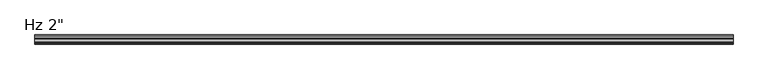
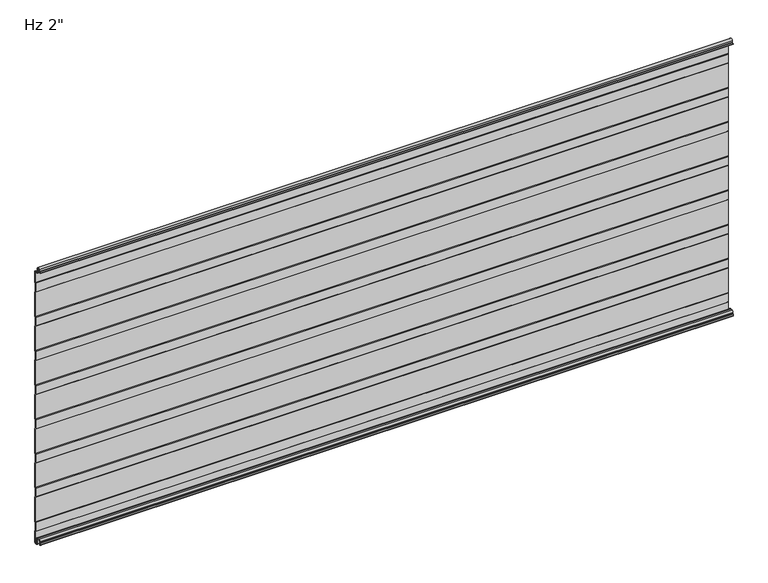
"""IFC4 building model written with IfcOpenShell, lengths in millimetres: plate geometry."""

from ifc_helpers import new_model, si_unit, frame, origin, place, context, project, spatial, polyline, circle_curve, source, transform, mapped, element, save
from ifc_brep_helpers import plane_surface, cylinder_surface, revolved_surface, advanced_brep


def plate_0f366c96(model_context):
    return source(origin(), model_context, "Body", "AdvancedBrep", [
        advanced_brep(
        [(-730.0, -17.0015159, 2.0313088), (-730.0, -18.0015191, 1.0313116), (-730.0, -19.0015104, 2.0313088), (-730.0, -19.0015105, 6.0315125), (-730.0, -18.0015159, 6.0315125), (-730.0, -18.0015159, 8.7237223), (-730.0, -14.7015202, 12.023718), (-730.0, -10.301529, 12.023718), (-730.0, -7.0015335, 8.7237225), (-730.0, -7.0015335, -1.6962564), (-730.0, -5.2315393, -3.4662506), (-730.0, -0.9999916, -3.4662506), (-730.0, -0.9999916, 21.034026), (-730.0, -2.2002307, 22.4196686), (-730.0, -2.2002307, 41.7948349), (-730.0, -1.0, 43.1804679), (-730.0, -1.0, 97.2338833), (-730.0, -2.2002307, 98.6195162), (-730.0, -2.2002307, 117.9946825), (-730.0, -1.0, 119.3803155), (-730.0, -1.0, 173.4337309), (-730.0, -2.2002307, 174.8193638), (-730.0, -2.2002307, 194.1945301), (-730.0, -1.0, 195.5801631), (-730.0, -1.0, 249.6335785), (-730.0, -2.2002307, 251.0192114), (-730.0, -2.2002307, 270.3943777), (-730.0, -1.0, 271.7800107), (-730.0, -1.0, 325.8334261), (-730.0, -2.2002307, 327.219059), (-730.0, -2.2002307, 346.5942253), (-730.0, -1.0, 347.9798583), (-730.0, -1.0, 402.0332737), (-730.0, -2.2002307, 403.4189066), (-730.0, -2.2002307, 422.7940729), (-730.0, -1.0, 424.1797059), (-730.0, -1.0, 478.2331213), (-730.0, -2.2002307, 479.6187542), (-730.0, -2.2002307, 498.9939205), (-730.0, -1.0, 500.3795535), (-730.0, -1.0, 554.4329689), (-730.0, -2.2002307, 555.8186018), (-730.0, -2.2002307, 575.1937681), (-730.0, -1.0, 576.5794011), (-730.0, -1.0, 601.0787013), (-730.0, -6.0026007, 601.0787013), (-730.0, -9.9974365, 604.9016499), (-730.0, -10.4046442, 613.3931719), (-730.0, -14.7059822, 613.3921924), (-730.0, -14.9256429, 609.2513685), (-730.0, -16.6743462, 607.5686884), (-730.0, -19.0015288, 607.5686884), (-730.0, -19.0015288, 608.5686884), (-730.0, -16.6743462, 608.5686884), (-730.0, -15.9247038, 609.2955779), (-730.0, -15.7045782, 613.4451655), (-730.0, -9.405912, 613.4435732), (-730.0, -8.9985844, 604.9495495), (-730.0, -6.0004836, 602.0787013), (-730.0, -1.4015652, 602.0787013), (-730.0, -0.001568, 600.678797), (-730.0, 2.09e-05, 576.7275849), (-730.0, -0.3417885, 575.8119353), (-730.0, -1.2002307, 574.8208877), (-730.0, -1.2002307, 556.1914823), (-730.0, -0.3417885, 555.2004346), (-730.0, 0.0, 554.2838177), (-730.0, 0.0, 500.5287046), (-730.0, -0.3417885, 499.6120877), (-730.0, -1.2002307, 498.6210401), (-730.0, -1.2002307, 479.9916347), (-730.0, -0.3417885, 479.000587), (-730.0, 0.0, 478.0839701), (-730.0, 0.0, 424.328857), (-730.0, -0.3417885, 423.4122401), (-730.0, -1.2002307, 422.4211925), (-730.0, -1.2002307, 403.7917871), (-730.0, -0.3417885, 402.8007394), (-730.0, 0.0, 401.8841225), (-730.0, 0.0, 348.1290094), (-730.0, -0.3417885, 347.2123925), (-730.0, -1.2002307, 346.2213449), (-730.0, -1.2002307, 327.5919395), (-730.0, -0.3417885, 326.6008918), (-730.0, 0.0, 325.6842749), (-730.0, 0.0, 271.9291618), (-730.0, -0.3417885, 271.0125449), (-730.0, -1.2002307, 270.0214973), (-730.0, -1.2002307, 251.3920919), (-730.0, -0.3417885, 250.4010442), (-730.0, 0.0, 249.4844273), (-730.0, 0.0, 195.7293142), (-730.0, -0.3417885, 194.8126973), (-730.0, -1.2002307, 193.8216497), (-730.0, -1.2002307, 175.1922443), (-730.0, -0.3417885, 174.2011966), (-730.0, 0.0, 173.2845797), (-730.0, 0.0, 119.5294666), (-730.0, -0.3417885, 118.6128497), (-730.0, -1.2002307, 117.6218021), (-730.0, -1.2002307, 98.9923967), (-730.0, -0.3417885, 98.001349), (-730.0, 0.0, 97.0847321), (-730.0, 0.0, 43.329619), (-730.0, -0.3417885, 42.4130021), (-730.0, -1.2002307, 41.4219545), (-730.0, -1.2002307, 22.7925491), (-730.0, -0.3417885, 21.8015014), (-730.0, 0.0, 20.8847931), (-730.0, 8.4e-06, -3.0662545), (-730.0, -1.3999878, -4.4662506), (-730.0, -5.2315393, -4.4662506), (-730.0, -8.0015335, -1.6962564), (-730.0, -8.0015335, 8.7237225), (-730.0, -10.301529, 11.023718), (-730.0, -14.7015202, 11.023718), (-730.0, -17.0015159, 8.7237223), (730.0, -17.0015159, 2.0313088), (730.0, -17.0015159, 8.7237223), (730.0, -14.7015202, 11.023718), (730.0, -10.301529, 11.023718), (730.0, -8.0015335, 8.7237225), (730.0, -8.0015335, -1.6962564), (730.0, -5.2315393, -4.4662506), (730.0, -1.3999878, -4.4662506), (730.0, 8.4e-06, -3.0662545), (730.0, 8.4e-06, 20.8848845), (730.0, -0.3417885, 21.8015014), (730.0, -1.2002307, 22.7925491), (730.0, -1.2002307, 41.4219545), (730.0, -0.3417885, 42.4130021), (730.0, 0.0, 43.329619), (730.0, 0.0, 97.0847321), (730.0, -0.3417885, 98.001349), (730.0, -1.2002307, 98.9923967), (730.0, -1.2002307, 117.6218021), (730.0, -0.3417885, 118.6128497), (730.0, 0.0, 119.5294666), (730.0, 0.0, 173.2845797), (730.0, -0.3417885, 174.2011966), (730.0, -1.2002307, 175.1922443), (730.0, -1.2002307, 193.8216497), (730.0, -0.3417885, 194.8126973), (730.0, 0.0, 195.7293142), (730.0, 0.0, 249.4844273), (730.0, -0.3417885, 250.4010442), (730.0, -1.2002307, 251.3920919), (730.0, -1.2002307, 270.0214973), (730.0, -0.3417885, 271.0125449), (730.0, 0.0, 271.9291618), (730.0, 0.0, 325.6842749), (730.0, -0.3417885, 326.6008918), (730.0, -1.2002307, 327.5919395), (730.0, -1.2002307, 346.2213449), (730.0, -0.3417885, 347.2123925), (730.0, 0.0, 348.1290094), (730.0, 0.0, 401.8841225), (730.0, -0.3417885, 402.8007394), (730.0, -1.2002307, 403.7917871), (730.0, -1.2002307, 422.4211925), (730.0, -0.3417885, 423.4122401), (730.0, 0.0, 424.328857), (730.0, 0.0, 478.0839701), (730.0, -0.3417885, 479.000587), (730.0, -1.2002307, 479.9916347), (730.0, -1.2002307, 498.6210401), (730.0, -0.3417885, 499.6120877), (730.0, 0.0, 500.5287046), (730.0, 0.0, 554.2838177), (730.0, -0.3417885, 555.2004346), (730.0, -1.2002307, 556.1914823), (730.0, -1.2002307, 574.8208877), (730.0, -0.3417885, 575.8119353), (730.0, 0.0, 576.7285522), (730.0, 2.09e-05, 600.678797), (730.0, -1.4015652, 602.0787013), (730.0, -6.0004836, 602.0787013), (730.0, -8.9985844, 604.9495495), (730.0, -9.405912, 613.4435732), (730.0, -15.7045782, 613.4451655), (730.0, -15.9247038, 609.2955779), (730.0, -16.6743462, 608.5686884), (730.0, -19.0015288, 608.5686884), (730.0, -19.0015288, 607.5686884), (730.0, -16.6743462, 607.5686884), (730.0, -14.9256429, 609.2513685), (730.0, -14.7059822, 613.3921924), (730.0, -10.4046442, 613.3931719), (730.0, -9.9974365, 604.9016499), (730.0, -6.0026007, 601.0787013), (730.0, -1.0, 601.0787013), (730.0, -1.0, 576.5794011), (730.0, -2.2002307, 575.1937681), (730.0, -2.2002307, 555.8186018), (730.0, -1.0, 554.4329689), (730.0, -1.0, 500.3795535), (730.0, -2.2002307, 498.9939205), (730.0, -2.2002307, 479.6187542), (730.0, -1.0, 478.2331213), (730.0, -1.0, 424.1797059), (730.0, -2.2002307, 422.7940729), (730.0, -2.2002307, 403.4189066), (730.0, -1.0, 402.0332737), (730.0, -1.0, 347.9798583), (730.0, -2.2002307, 346.5942253), (730.0, -2.2002307, 327.219059), (730.0, -1.0, 325.8334261), (730.0, -1.0, 271.7800107), (730.0, -2.2002307, 270.3943777), (730.0, -2.2002307, 251.0192114), (730.0, -1.0, 249.6335785), (730.0, -1.0, 195.5801631), (730.0, -2.2002307, 194.1945301), (730.0, -2.2002307, 174.8193638), (730.0, -1.0, 173.4337309), (730.0, -1.0, 119.3803155), (730.0, -2.2002307, 117.9946825), (730.0, -2.2002307, 98.6195162), (730.0, -1.0, 97.2338833), (730.0, -1.0, 43.1804679), (730.0, -2.2002307, 41.7948349), (730.0, -2.2002307, 22.4196686), (730.0, -0.9999916, 21.034026), (730.0, -0.9999916, -3.4662506), (730.0, -5.2315393, -3.4662506), (730.0, -7.0015335, -1.6962564), (730.0, -7.0015335, 8.7237225), (730.0, -10.301529, 12.023718), (730.0, -14.7015202, 12.023718), (730.0, -18.0015159, 8.7237223), (730.0, -18.0015159, 6.0315125), (730.0, -19.0015105, 6.0315125), (730.0, -19.0015105, 2.0313088), (730.0, -18.0015191, 1.0313116)],
        [
            (0, 1, circle_curve(frame((-730.0, -18.0015132, 2.0313088), z_axis=(-1.0, 0.0, 0.0), x_axis=(0.0, 0.0, 1.0)), 0.9999973)),
            (1, 2, circle_curve(frame((-730.0, -18.0015132, 2.0313088), z_axis=(-1.0, 0.0, 0.0), x_axis=(0.0, 0.0, 1.0)), 0.9999972)),
            (2, 3),
            (3, 4),
            (4, 5),
            (5, 6, circle_curve(frame((-730.0, -14.7015202, 8.7237223), z_axis=(-1.0, 0.0, 0.0), x_axis=(0.0, 0.0, 1.0)), 3.2999957)),
            (6, 7),
            (7, 8, circle_curve(frame((-730.0, -10.301529, 8.7237225), z_axis=(-1.0, 0.0, 0.0), x_axis=(0.0, 0.0, 1.0)), 3.2999955)),
            (8, 9),
            (9, 10, circle_curve(frame((-730.0, -5.2315393, -1.6962564), z_axis=(1.0, 0.0, 0.0), x_axis=(0.0, 0.0, 1.0)), 1.7699942)),
            (10, 11),
            (11, 12),
            (12, 13),
            (13, 14),
            (14, 15),
            (15, 16),
            (16, 17),
            (17, 18),
            (18, 19),
            (19, 20),
            (20, 21),
            (21, 22),
            (22, 23),
            (23, 24),
            (24, 25),
            (25, 26),
            (26, 27),
            (27, 28),
            (28, 29),
            (29, 30),
            (30, 31),
            (31, 32),
            (32, 33),
            (33, 34),
            (34, 35),
            (35, 36),
            (36, 37),
            (37, 38),
            (38, 39),
            (39, 40),
            (40, 41),
            (41, 42),
            (42, 43),
            (43, 44),
            (44, 45),
            (45, 46, circle_curve(frame((-730.0, -5.9867338, 605.0939817), z_axis=(-1.0, 0.0, 0.0), x_axis=(0.0, 0.0, 1.0)), 4.0153117)),
            (46, 47),
            (47, 48, circle_curve(frame((-730.0, -12.5552871, 613.2781032), z_axis=(1.0, 0.0, 0.0), x_axis=(0.0, 0.0, 1.0)), 2.153719)),
            (48, 49),
            (49, 50, circle_curve(frame((-730.0, -16.6743462, 609.3186869), z_axis=(-1.0, 0.0, 0.0), x_axis=(0.0, 0.0, 1.0)), 1.7499985)),
            (50, 51),
            (51, 52),
            (52, 53),
            (53, 54, circle_curve(frame((-730.0, -16.6743462, 609.3186869), z_axis=(1.0, 0.0, 0.0), x_axis=(0.0, 0.0, 1.0)), 0.7499985)),
            (54, 55),
            (55, 56, circle_curve(frame((-730.0, -12.5552871, 613.2781032), z_axis=(-1.0, 0.0, 0.0), x_axis=(0.0, 0.0, 1.0)), 3.153719)),
            (56, 57),
            (57, 58, circle_curve(frame((-730.0, -5.9867338, 605.0939817), z_axis=(1.0, 0.0, 0.0), x_axis=(0.0, 0.0, 1.0)), 3.0153117)),
            (58, 59),
            (59, 60, circle_curve(frame((-730.0, -1.4015652, 600.6787041), z_axis=(-1.0, 0.0, 0.0), x_axis=(0.0, 0.0, 1.0)), 1.3999972)),
            (60, 61),
            (61, 62, circle_curve(frame((-730.0, -1.3999972, 576.7285522), z_axis=(-1.0, 0.0, 0.0), x_axis=(0.0, 0.0, 1.0)), 1.3999972)),
            (62, 63),
            (63, 64),
            (64, 65),
            (65, 66, circle_curve(frame((-730.0, -1.3999972, 554.2838177), z_axis=(-1.0, 0.0, 0.0), x_axis=(0.0, 0.0, 1.0)), 1.3999972)),
            (66, 67),
            (67, 68, circle_curve(frame((-730.0, -1.3999972, 500.5287046), z_axis=(-1.0, 0.0, 0.0), x_axis=(0.0, 0.0, 1.0)), 1.3999972)),
            (68, 69),
            (69, 70),
            (70, 71),
            (71, 72, circle_curve(frame((-730.0, -1.3999972, 478.0839701), z_axis=(-1.0, 0.0, 0.0), x_axis=(0.0, 0.0, 1.0)), 1.3999972)),
            (72, 73),
            (73, 74, circle_curve(frame((-730.0, -1.3999972, 424.328857), z_axis=(-1.0, 0.0, 0.0), x_axis=(0.0, 0.0, 1.0)), 1.3999972)),
            (74, 75),
            (75, 76),
            (76, 77),
            (77, 78, circle_curve(frame((-730.0, -1.3999972, 401.8841225), z_axis=(-1.0, 0.0, 0.0), x_axis=(0.0, 0.0, 1.0)), 1.3999972)),
            (78, 79),
            (79, 80, circle_curve(frame((-730.0, -1.3999972, 348.1290094), z_axis=(-1.0, 0.0, 0.0), x_axis=(0.0, 0.0, 1.0)), 1.3999972)),
            (80, 81),
            (81, 82),
            (82, 83),
            (83, 84, circle_curve(frame((-730.0, -1.3999972, 325.6842749), z_axis=(-1.0, 0.0, 0.0), x_axis=(0.0, 0.0, 1.0)), 1.3999972)),
            (84, 85),
            (85, 86, circle_curve(frame((-730.0, -1.3999972, 271.9291618), z_axis=(-1.0, 0.0, 0.0), x_axis=(0.0, 0.0, 1.0)), 1.3999972)),
            (86, 87),
            (87, 88),
            (88, 89),
            (89, 90, circle_curve(frame((-730.0, -1.3999972, 249.4844273), z_axis=(-1.0, 0.0, 0.0), x_axis=(0.0, 0.0, 1.0)), 1.3999972)),
            (90, 91),
            (91, 92, circle_curve(frame((-730.0, -1.3999972, 195.7293142), z_axis=(-1.0, 0.0, 0.0), x_axis=(0.0, 0.0, 1.0)), 1.3999972)),
            (92, 93),
            (93, 94),
            (94, 95),
            (95, 96, circle_curve(frame((-730.0, -1.3999972, 173.2845797), z_axis=(-1.0, 0.0, 0.0), x_axis=(0.0, 0.0, 1.0)), 1.3999972)),
            (96, 97),
            (97, 98, circle_curve(frame((-730.0, -1.3999972, 119.5294666), z_axis=(-1.0, 0.0, 0.0), x_axis=(0.0, 0.0, 1.0)), 1.3999972)),
            (98, 99),
            (99, 100),
            (100, 101),
            (101, 102, circle_curve(frame((-730.0, -1.3999972, 97.0847321), z_axis=(-1.0, 0.0, 0.0), x_axis=(0.0, 0.0, 1.0)), 1.3999972)),
            (102, 103),
            (103, 104, circle_curve(frame((-730.0, -1.3999972, 43.329619), z_axis=(-1.0, 0.0, 0.0), x_axis=(0.0, 0.0, 1.0)), 1.3999972)),
            (104, 105),
            (105, 106),
            (106, 107),
            (107, 108, circle_curve(frame((-730.0, -1.3999972, 20.8848845), z_axis=(-1.0, 0.0, 0.0), x_axis=(0.0, 0.0, 1.0)), 1.3999972)),
            (108, 109),
            (109, 110, circle_curve(frame((-730.0, -1.3999878, -3.0662545), z_axis=(-1.0, 0.0, 0.0), x_axis=(0.0, 0.0, 1.0)), 1.3999962)),
            (110, 111),
            (111, 112, circle_curve(frame((-730.0, -5.2315393, -1.6962564), z_axis=(-1.0, 0.0, 0.0), x_axis=(0.0, 0.0, 1.0)), 2.7699942)),
            (112, 113),
            (113, 114, circle_curve(frame((-730.0, -10.301529, 8.7237225), z_axis=(1.0, 0.0, 0.0), x_axis=(0.0, 0.0, 1.0)), 2.2999955)),
            (114, 115),
            (115, 116, circle_curve(frame((-730.0, -14.7015202, 8.7237223), z_axis=(1.0, 0.0, 0.0), x_axis=(0.0, 0.0, 1.0)), 2.2999957)),
            (116, 0),
            (117, 118),
            (118, 119, circle_curve(frame((730.0, -14.7015202, 8.7237223), z_axis=(-1.0, 0.0, 0.0), x_axis=(0.0, 0.0, 1.0)), 2.2999957)),
            (119, 120),
            (120, 121, circle_curve(frame((730.0, -10.301529, 8.7237225), z_axis=(-1.0, 0.0, 0.0), x_axis=(0.0, 0.0, 1.0)), 2.2999955)),
            (121, 122),
            (122, 123, circle_curve(frame((730.0, -5.2315393, -1.6962564), z_axis=(1.0, 0.0, 0.0), x_axis=(0.0, 0.0, 1.0)), 2.7699942)),
            (123, 124),
            (124, 125, circle_curve(frame((730.0, -1.3999878, -3.0662545), z_axis=(1.0, 0.0, 0.0), x_axis=(0.0, 0.0, 1.0)), 1.3999962)),
            (125, 126),
            (126, 127, circle_curve(frame((730.0, -1.3999972, 20.8848845), z_axis=(1.0, 0.0, 0.0), x_axis=(0.0, 0.0, 1.0)), 1.3999972)),
            (127, 128),
            (128, 129),
            (129, 130),
            (130, 131, circle_curve(frame((730.0, -1.3999972, 43.329619), z_axis=(1.0, 0.0, 0.0), x_axis=(0.0, 0.0, 1.0)), 1.3999972)),
            (131, 132),
            (132, 133, circle_curve(frame((730.0, -1.3999972, 97.0847321), z_axis=(1.0, 0.0, 0.0), x_axis=(0.0, 0.0, 1.0)), 1.3999972)),
            (133, 134),
            (134, 135),
            (135, 136),
            (136, 137, circle_curve(frame((730.0, -1.3999972, 119.5294666), z_axis=(1.0, 0.0, 0.0), x_axis=(0.0, 0.0, 1.0)), 1.3999972)),
            (137, 138),
            (138, 139, circle_curve(frame((730.0, -1.3999972, 173.2845797), z_axis=(1.0, 0.0, 0.0), x_axis=(0.0, 0.0, 1.0)), 1.3999972)),
            (139, 140),
            (140, 141),
            (141, 142),
            (142, 143, circle_curve(frame((730.0, -1.3999972, 195.7293142), z_axis=(1.0, 0.0, 0.0), x_axis=(0.0, 0.0, 1.0)), 1.3999972)),
            (143, 144),
            (144, 145, circle_curve(frame((730.0, -1.3999972, 249.4844273), z_axis=(1.0, 0.0, 0.0), x_axis=(0.0, 0.0, 1.0)), 1.3999972)),
            (145, 146),
            (146, 147),
            (147, 148),
            (148, 149, circle_curve(frame((730.0, -1.3999972, 271.9291618), z_axis=(1.0, 0.0, 0.0), x_axis=(0.0, 0.0, 1.0)), 1.3999972)),
            (149, 150),
            (150, 151, circle_curve(frame((730.0, -1.3999972, 325.6842749), z_axis=(1.0, 0.0, 0.0), x_axis=(0.0, 0.0, 1.0)), 1.3999972)),
            (151, 152),
            (152, 153),
            (153, 154),
            (154, 155, circle_curve(frame((730.0, -1.3999972, 348.1290094), z_axis=(1.0, 0.0, 0.0), x_axis=(0.0, 0.0, 1.0)), 1.3999972)),
            (155, 156),
            (156, 157, circle_curve(frame((730.0, -1.3999972, 401.8841225), z_axis=(1.0, 0.0, 0.0), x_axis=(0.0, 0.0, 1.0)), 1.3999972)),
            (157, 158),
            (158, 159),
            (159, 160),
            (160, 161, circle_curve(frame((730.0, -1.3999972, 424.328857), z_axis=(1.0, 0.0, 0.0), x_axis=(0.0, 0.0, 1.0)), 1.3999972)),
            (161, 162),
            (162, 163, circle_curve(frame((730.0, -1.3999972, 478.0839701), z_axis=(1.0, 0.0, 0.0), x_axis=(0.0, 0.0, 1.0)), 1.3999972)),
            (163, 164),
            (164, 165),
            (165, 166),
            (166, 167, circle_curve(frame((730.0, -1.3999972, 500.5287046), z_axis=(1.0, 0.0, 0.0), x_axis=(0.0, 0.0, 1.0)), 1.3999972)),
            (167, 168),
            (168, 169, circle_curve(frame((730.0, -1.3999972, 554.2838177), z_axis=(1.0, 0.0, 0.0), x_axis=(0.0, 0.0, 1.0)), 1.3999972)),
            (169, 170),
            (170, 171),
            (171, 172),
            (172, 173, circle_curve(frame((730.0, -1.3999972, 576.7285522), z_axis=(1.0, 0.0, 0.0), x_axis=(0.0, 0.0, 1.0)), 1.3999972)),
            (173, 174),
            (174, 175, circle_curve(frame((730.0, -1.4015652, 600.6787041), z_axis=(1.0, 0.0, 0.0), x_axis=(0.0, 0.0, 1.0)), 1.3999972)),
            (175, 176),
            (176, 177, circle_curve(frame((730.0, -5.9867338, 605.0939817), z_axis=(-1.0, 0.0, 0.0), x_axis=(0.0, 0.0, 1.0)), 3.0153117)),
            (177, 178),
            (178, 179, circle_curve(frame((730.0, -12.5552871, 613.2781032), z_axis=(1.0, 0.0, 0.0), x_axis=(0.0, 0.0, 1.0)), 3.153719)),
            (179, 180),
            (180, 181, circle_curve(frame((730.0, -16.6743462, 609.3186869), z_axis=(-1.0, 0.0, 0.0), x_axis=(0.0, 0.0, 1.0)), 0.7499985)),
            (181, 182),
            (182, 183),
            (183, 184),
            (184, 185, circle_curve(frame((730.0, -16.6743462, 609.3186869), z_axis=(1.0, 0.0, 0.0), x_axis=(0.0, 0.0, 1.0)), 1.7499985)),
            (185, 186),
            (186, 187, circle_curve(frame((730.0, -12.5552871, 613.2781032), z_axis=(-1.0, 0.0, 0.0), x_axis=(0.0, 0.0, 1.0)), 2.153719)),
            (187, 188),
            (188, 189, circle_curve(frame((730.0, -5.9867338, 605.0939817), z_axis=(1.0, 0.0, 0.0), x_axis=(0.0, 0.0, 1.0)), 4.0153117)),
            (189, 190),
            (190, 191),
            (191, 192),
            (192, 193),
            (193, 194),
            (194, 195),
            (195, 196),
            (196, 197),
            (197, 198),
            (198, 199),
            (199, 200),
            (200, 201),
            (201, 202),
            (202, 203),
            (203, 204),
            (204, 205),
            (205, 206),
            (206, 207),
            (207, 208),
            (208, 209),
            (209, 210),
            (210, 211),
            (211, 212),
            (212, 213),
            (213, 214),
            (214, 215),
            (215, 216),
            (216, 217),
            (217, 218),
            (218, 219),
            (219, 220),
            (220, 221),
            (221, 222),
            (222, 223),
            (223, 224),
            (224, 225, circle_curve(frame((730.0, -5.2315393, -1.6962564), z_axis=(-1.0, 0.0, 0.0), x_axis=(0.0, 0.0, 1.0)), 1.7699942)),
            (225, 226),
            (226, 227, circle_curve(frame((730.0, -10.301529, 8.7237225), z_axis=(1.0, 0.0, 0.0), x_axis=(0.0, 0.0, 1.0)), 3.2999955)),
            (227, 228),
            (228, 229, circle_curve(frame((730.0, -14.7015202, 8.7237223), z_axis=(1.0, 0.0, 0.0), x_axis=(0.0, 0.0, 1.0)), 3.2999957)),
            (229, 230),
            (230, 231),
            (231, 232),
            (232, 233, circle_curve(frame((730.0, -18.0015132, 2.0313088), z_axis=(1.0, 0.0, 0.0), x_axis=(0.0, 0.0, 1.0)), 0.9999972)),
            (233, 117, circle_curve(frame((730.0, -18.0015132, 2.0313088), z_axis=(1.0, 0.0, 0.0), x_axis=(0.0, 0.0, 1.0)), 0.9999973)),
            (116, 118),
            (117, 0),
            (115, 119),
            (114, 120),
            (113, 121),
            (112, 122),
            (111, 123),
            (110, 124),
            (109, 125),
            (108, 126),
            (90, 144),
            (143, 91),
            (107, 127),
            (106, 128),
            (105, 129),
            (103, 131),
            (130, 104),
            (101, 133),
            (132, 102),
            (86, 148),
            (147, 87),
            (142, 92),
            (141, 93),
            (96, 138),
            (137, 97),
            (89, 145),
            (88, 146),
            (85, 149),
            (136, 98),
            (99, 135),
            (134, 100),
            (95, 139),
            (94, 140),
            (2, 232),
            (231, 3),
            (1, 233),
            (84, 150),
            (83, 151),
            (82, 152),
            (81, 153),
            (80, 154),
            (79, 155),
            (78, 156),
            (77, 157),
            (76, 158),
            (75, 159),
            (74, 160),
            (73, 161),
            (72, 162),
            (71, 163),
            (70, 164),
            (69, 165),
            (68, 166),
            (67, 167),
            (66, 168),
            (65, 169),
            (64, 170),
            (63, 171),
            (62, 172),
            (61, 173),
            (60, 174),
            (59, 175),
            (58, 176),
            (57, 177),
            (56, 178),
            (55, 179),
            (54, 180),
            (53, 181),
            (52, 182),
            (51, 183),
            (50, 184),
            (49, 185),
            (48, 186),
            (47, 187),
            (46, 188),
            (45, 189),
            (44, 190),
            (43, 191),
            (42, 192),
            (41, 193),
            (40, 194),
            (39, 195),
            (38, 196),
            (37, 197),
            (36, 198),
            (35, 199),
            (34, 200),
            (33, 201),
            (32, 202),
            (31, 203),
            (30, 204),
            (29, 205),
            (28, 206),
            (27, 207),
            (26, 208),
            (25, 209),
            (24, 210),
            (23, 211),
            (22, 212),
            (21, 213),
            (20, 214),
            (19, 215),
            (18, 216),
            (17, 217),
            (16, 218),
            (15, 219),
            (14, 220),
            (13, 221),
            (12, 222),
            (11, 223),
            (10, 224),
            (9, 225),
            (8, 226),
            (7, 227),
            (6, 228),
            (5, 229),
            (4, 230),
        ],
        [
            plane_surface(frame((-730.0, 0.0, 304.8), z_axis=(-1.0, 0.0, 0.0), x_axis=(0.0, 1.0, 0.0))),
            plane_surface(frame((730.0, 0.0, 304.8), z_axis=(1.0, 0.0, 0.0), x_axis=(0.0, 1.0, 0.0))),
            plane_surface(frame((-730.0, -17.0015159, 2.0313088), z_axis=(0.0, 1.0, 0.0), x_axis=(1.0, 0.0, 0.0))),
            revolved_surface(polyline([(730.0, -14.7015202, 11.023718), (-730.0, -14.7015202, 11.023718)]), (-730.0, -14.7015202, 8.7237223), (1.0, 0.0, 0.0)),
            plane_surface(frame((-730.0, -14.7015202, 11.023718), z_axis=(0.0, 0.0, -1.0), x_axis=(1.0, 0.0, 0.0))),
            revolved_surface(polyline([(730.0, -10.301529, 11.023717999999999), (-730.0, -10.301529, 11.023717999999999)]), (-730.0, -10.301529, 8.7237225), (1.0, 0.0, 0.0)),
            plane_surface(frame((-730.0, -8.0015335, 8.7237225), z_axis=(0.0, -1.0, 0.0), x_axis=(1.0, 0.0, 0.0))),
            cylinder_surface(frame((-730.0, -5.2315393, -1.6962564), z_axis=(-1.0, 0.0, 0.0), x_axis=(0.0, 0.0, 1.0)), 2.7699942),
            plane_surface(frame((-730.0, -5.2315393, -4.4662506), z_axis=(0.0, 0.0, -1.0), x_axis=(1.0, 0.0, 0.0))),
            cylinder_surface(frame((-730.0, -1.3999878, -3.0662545), z_axis=(-1.0, 0.0, 0.0), x_axis=(0.0, 0.0, 1.0)), 1.3999962),
            plane_surface(frame((-730.0, 8.4e-06, -3.0662545), z_axis=(0.0, 1.0, 0.0), x_axis=(1.0, 0.0, 0.0))),
            plane_surface(frame((-730.0, 0.0, 195.7293142), z_axis=(0.0, 1.0, 0.0), x_axis=(1.0, 0.0, 0.0))),
            cylinder_surface(frame((-730.0, -1.3999972, 20.8848845), z_axis=(-1.0, 0.0, 0.0), x_axis=(0.0, 0.0, 1.0)), 1.3999972),
            plane_surface(frame((-730.0, -0.3417885, 21.8015014), z_axis=(0.0, 0.755864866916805, 0.6547276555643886), x_axis=(1.0, 0.0, 0.0))),
            plane_surface(frame((-730.0, -1.2002307, 32.1072518), z_axis=(0.0, 1.0, 0.0), x_axis=(1.0, 0.0, 0.0))),
            cylinder_surface(frame((-730.0, -1.3999972, 43.329619), z_axis=(-1.0, 0.0, 0.0), x_axis=(0.0, 0.0, 1.0)), 1.3999972),
            plane_surface(frame((-730.0, -1.2002307, 41.4219545), z_axis=(0.0, 0.755864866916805, -0.6547276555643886), x_axis=(1.0, 0.0, 0.0))),
            cylinder_surface(frame((-730.0, -1.3999972, 97.0847321), z_axis=(-1.0, 0.0, 0.0), x_axis=(0.0, 0.0, 1.0)), 1.3999972),
            plane_surface(frame((-730.0, -1.2002307, 270.0214973), z_axis=(0.0, 0.755864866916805, -0.6547276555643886), x_axis=(1.0, 0.0, 0.0))),
            cylinder_surface(frame((-730.0, -1.3999972, 195.7293142), z_axis=(-1.0, 0.0, 0.0), x_axis=(0.0, 0.0, 1.0)), 1.3999972),
            plane_surface(frame((-730.0, -1.2002307, 193.8216497), z_axis=(0.0, 0.755864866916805, -0.6547276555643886), x_axis=(1.0, 0.0, 0.0))),
            plane_surface(frame((-730.0, 0.0, 119.5294666), z_axis=(0.0, 1.0, 0.0), x_axis=(1.0, 0.0, 0.0))),
            cylinder_surface(frame((-730.0, -1.3999972, 249.4844273), z_axis=(-1.0, 0.0, 0.0), x_axis=(0.0, 0.0, 1.0)), 1.3999972),
            plane_surface(frame((-730.0, -0.3417885, 250.4010442), z_axis=(0.0, 0.755864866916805, 0.6547276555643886), x_axis=(1.0, 0.0, 0.0))),
            plane_surface(frame((-730.0, -1.2002307, 260.7067946), z_axis=(0.0, 1.0, 0.0), x_axis=(1.0, 0.0, 0.0))),
            cylinder_surface(frame((-730.0, -1.3999972, 271.9291618), z_axis=(-1.0, 0.0, 0.0), x_axis=(0.0, 0.0, 1.0)), 1.3999972),
            cylinder_surface(frame((-730.0, -1.3999972, 119.5294666), z_axis=(-1.0, 0.0, 0.0), x_axis=(0.0, 0.0, 1.0)), 1.3999972),
            plane_surface(frame((-730.0, -1.2002307, 108.3070994), z_axis=(0.0, 1.0, 0.0), x_axis=(1.0, 0.0, 0.0))),
            plane_surface(frame((-730.0, -0.3417885, 98.001349), z_axis=(0.0, 0.755864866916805, 0.6547276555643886), x_axis=(1.0, 0.0, 0.0))),
            plane_surface(frame((-730.0, -1.2002307, 117.6218021), z_axis=(0.0, 0.755864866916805, -0.6547276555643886), x_axis=(1.0, 0.0, 0.0))),
            plane_surface(frame((-730.0, 0.0, 43.329619), z_axis=(0.0, 1.0, 0.0), x_axis=(1.0, 0.0, 0.0))),
            cylinder_surface(frame((-730.0, -1.3999972, 173.2845797), z_axis=(-1.0, 0.0, 0.0), x_axis=(0.0, 0.0, 1.0)), 1.3999972),
            plane_surface(frame((-730.0, -0.3417885, 174.2011966), z_axis=(0.0, 0.755864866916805, 0.6547276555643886), x_axis=(1.0, 0.0, 0.0))),
            plane_surface(frame((-730.0, -1.2002307, 184.506947), z_axis=(0.0, 1.0, 0.0), x_axis=(1.0, 0.0, 0.0))),
            plane_surface(frame((-730.0, -19.0015105, 6.0315125), z_axis=(0.0, -1.0, 0.0), x_axis=(1.0, 0.0, 0.0))),
            cylinder_surface(frame((-730.0, -18.0015132, 2.0313088), z_axis=(-1.0, 0.0, 0.0), x_axis=(0.0, 0.0, 1.0)), 0.9999972),
            cylinder_surface(frame((-730.0, -18.0015132, 2.0313088), z_axis=(-1.0, 0.0, 0.0), x_axis=(0.0, 0.0, 1.0)), 0.9999973),
            plane_surface(frame((-730.0, 0.0, 271.9291618), z_axis=(0.0, 1.0, 0.0), x_axis=(1.0, 0.0, 0.0))),
            cylinder_surface(frame((-730.0, -1.3999972, 325.6842749), z_axis=(-1.0, 0.0, 0.0), x_axis=(0.0, 0.0, 1.0)), 1.3999972),
            plane_surface(frame((-730.0, -0.3417885, 326.6008918), z_axis=(0.0, 0.755864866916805, 0.6547276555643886), x_axis=(1.0, 0.0, 0.0))),
            plane_surface(frame((-730.0, -1.2002307, 336.9066422), z_axis=(0.0, 1.0, 0.0), x_axis=(1.0, 0.0, 0.0))),
            plane_surface(frame((-730.0, -1.2002307, 346.2213449), z_axis=(0.0, 0.755864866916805, -0.6547276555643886), x_axis=(1.0, 0.0, 0.0))),
            cylinder_surface(frame((-730.0, -1.3999972, 348.1290094), z_axis=(-1.0, 0.0, 0.0), x_axis=(0.0, 0.0, 1.0)), 1.3999972),
            plane_surface(frame((-730.0, 0.0, 348.1290094), z_axis=(0.0, 1.0, 0.0), x_axis=(1.0, 0.0, 0.0))),
            cylinder_surface(frame((-730.0, -1.3999972, 401.8841225), z_axis=(-1.0, 0.0, 0.0), x_axis=(0.0, 0.0, 1.0)), 1.3999972),
            plane_surface(frame((-730.0, -0.3417885, 402.8007394), z_axis=(0.0, 0.755864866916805, 0.6547276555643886), x_axis=(1.0, 0.0, 0.0))),
            plane_surface(frame((-730.0, -1.2002307, 413.1064898), z_axis=(0.0, 1.0, 0.0), x_axis=(1.0, 0.0, 0.0))),
            plane_surface(frame((-730.0, -1.2002307, 422.4211925), z_axis=(0.0, 0.755864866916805, -0.6547276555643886), x_axis=(1.0, 0.0, 0.0))),
            cylinder_surface(frame((-730.0, -1.3999972, 424.328857), z_axis=(-1.0, 0.0, 0.0), x_axis=(0.0, 0.0, 1.0)), 1.3999972),
            plane_surface(frame((-730.0, 0.0, 424.328857), z_axis=(0.0, 1.0, 0.0), x_axis=(1.0, 0.0, 0.0))),
            cylinder_surface(frame((-730.0, -1.3999972, 478.0839701), z_axis=(-1.0, 0.0, 0.0), x_axis=(0.0, 0.0, 1.0)), 1.3999972),
            plane_surface(frame((-730.0, -0.3417885, 479.000587), z_axis=(0.0, 0.755864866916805, 0.6547276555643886), x_axis=(1.0, 0.0, 0.0))),
            plane_surface(frame((-730.0, -1.2002307, 489.3063374), z_axis=(0.0, 1.0, 0.0), x_axis=(1.0, 0.0, 0.0))),
            plane_surface(frame((-730.0, -1.2002307, 498.6210401), z_axis=(0.0, 0.755864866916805, -0.6547276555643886), x_axis=(1.0, 0.0, 0.0))),
            cylinder_surface(frame((-730.0, -1.3999972, 500.5287046), z_axis=(-1.0, 0.0, 0.0), x_axis=(0.0, 0.0, 1.0)), 1.3999972),
            plane_surface(frame((-730.0, 0.0, 500.5287046), z_axis=(0.0, 1.0, 0.0), x_axis=(1.0, 0.0, 0.0))),
            cylinder_surface(frame((-730.0, -1.3999972, 554.2838177), z_axis=(-1.0, 0.0, 0.0), x_axis=(0.0, 0.0, 1.0)), 1.3999972),
            plane_surface(frame((-730.0, -0.3417885, 555.2004346), z_axis=(0.0, 0.755864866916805, 0.6547276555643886), x_axis=(1.0, 0.0, 0.0))),
            plane_surface(frame((-730.0, -1.2002307, 565.506185), z_axis=(0.0, 1.0, 0.0), x_axis=(1.0, 0.0, 0.0))),
            plane_surface(frame((-730.0, -1.2002307, 574.8208877), z_axis=(0.0, 0.755864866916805, -0.6547276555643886), x_axis=(1.0, 0.0, 0.0))),
            cylinder_surface(frame((-730.0, -1.3999972, 576.7285522), z_axis=(-1.0, 0.0, 0.0), x_axis=(0.0, 0.0, 1.0)), 1.3999972),
            plane_surface(frame((-730.0, 2.09e-05, 576.7275849), z_axis=(0.0, 1.0, 0.0), x_axis=(1.0, 0.0, 0.0))),
            cylinder_surface(frame((-730.0, -1.4015652, 600.6787041), z_axis=(-1.0, 0.0, 0.0), x_axis=(0.0, 0.0, 1.0)), 1.3999972),
            plane_surface(frame((-730.0, -1.4015652, 602.0787013), z_axis=(0.0, 0.0, 1.0), x_axis=(1.0, 0.0, 0.0))),
            revolved_surface(polyline([(730.0, -5.9867338, 608.1092934), (-730.0, -5.9867338, 608.1092934)]), (-730.0, -5.9867338, 605.0939817), (1.0, 0.0, 0.0)),
            plane_surface(frame((-730.0, -8.9985844, 604.9495495), z_axis=(0.0, 0.9988521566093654, 0.047899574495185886), x_axis=(1.0, 0.0, 0.0))),
            cylinder_surface(frame((-730.0, -12.5552871, 613.2781032), z_axis=(-1.0, 0.0, 0.0), x_axis=(0.0, 0.0, 1.0)), 3.153719),
            plane_surface(frame((-730.0, -15.7045782, 613.4451655), z_axis=(0.0, -0.9985959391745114, 0.05297310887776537), x_axis=(1.0, 0.0, 0.0))),
            revolved_surface(polyline([(730.0, -16.6743462, 610.0686853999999), (-730.0, -16.6743462, 610.0686853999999)]), (-730.0, -16.6743462, 609.3186869), (1.0, 0.0, 0.0)),
            plane_surface(frame((-730.0, -17.5871409, 608.5686884), z_axis=(0.0, 0.0, 1.0), x_axis=(1.0, 0.0, 0.0))),
            plane_surface(frame((-730.0, -19.0015288, 608.5686884), z_axis=(0.0, -1.0, 0.0), x_axis=(1.0, 0.0, 0.0))),
            plane_surface(frame((-730.0, -17.5871409, 607.5686884), z_axis=(0.0, 0.0, -1.0), x_axis=(1.0, 0.0, 0.0))),
            cylinder_surface(frame((-730.0, -16.6743462, 609.3186869), z_axis=(-1.0, 0.0, 0.0), x_axis=(0.0, 0.0, 1.0)), 1.7499985),
            plane_surface(frame((-730.0, -14.9256429, 609.2513685), z_axis=(0.0, 0.998595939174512, -0.05297310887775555), x_axis=(1.0, 0.0, 0.0))),
            revolved_surface(polyline([(730.0, -12.5552871, 615.4318222), (-730.0, -12.5552871, 615.4318222)]), (-730.0, -12.5552871, 613.2781032), (1.0, 0.0, 0.0)),
            plane_surface(frame((-730.0, -10.4046442, 613.3931719), z_axis=(0.0, -0.9988521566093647, -0.04789957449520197), x_axis=(1.0, 0.0, 0.0))),
            cylinder_surface(frame((-730.0, -5.9867338, 605.0939817), z_axis=(-1.0, 0.0, 0.0), x_axis=(0.0, 0.0, 1.0)), 4.0153117),
            plane_surface(frame((-730.0, -6.0026007, 601.0787013), z_axis=(0.0, 0.0, -1.0), x_axis=(1.0, 0.0, 0.0))),
            plane_surface(frame((-730.0, -1.0, 601.0787013), z_axis=(0.0, -1.0, 0.0), x_axis=(1.0, 0.0, 0.0))),
            plane_surface(frame((-730.0, -1.0, 576.5794011), z_axis=(0.0, -0.755864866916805, 0.6547276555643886), x_axis=(1.0, 0.0, 0.0))),
            plane_surface(frame((-730.0, -2.2002307, 575.1937681), z_axis=(0.0, -1.0, 0.0), x_axis=(1.0, 0.0, 0.0))),
            plane_surface(frame((-730.0, -2.2002307, 555.8186018), z_axis=(0.0, -0.755864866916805, -0.6547276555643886), x_axis=(1.0, 0.0, 0.0))),
            plane_surface(frame((-730.0, -1.0, 554.4329689), z_axis=(0.0, -1.0, 0.0), x_axis=(1.0, 0.0, 0.0))),
            plane_surface(frame((-730.0, -1.0, 500.3795535), z_axis=(0.0, -0.755864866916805, 0.6547276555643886), x_axis=(1.0, 0.0, 0.0))),
            plane_surface(frame((-730.0, -2.2002307, 498.9939205), z_axis=(0.0, -1.0, 0.0), x_axis=(1.0, 0.0, 0.0))),
            plane_surface(frame((-730.0, -2.2002307, 479.6187542), z_axis=(0.0, -0.755864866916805, -0.6547276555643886), x_axis=(1.0, 0.0, 0.0))),
            plane_surface(frame((-730.0, -1.0, 478.2331213), z_axis=(0.0, -1.0, 0.0), x_axis=(1.0, 0.0, 0.0))),
            plane_surface(frame((-730.0, -1.0, 424.1797059), z_axis=(0.0, -0.755864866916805, 0.6547276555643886), x_axis=(1.0, 0.0, 0.0))),
            plane_surface(frame((-730.0, -2.2002307, 422.7940729), z_axis=(0.0, -1.0, 0.0), x_axis=(1.0, 0.0, 0.0))),
            plane_surface(frame((-730.0, -2.2002307, 403.4189066), z_axis=(0.0, -0.755864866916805, -0.6547276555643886), x_axis=(1.0, 0.0, 0.0))),
            plane_surface(frame((-730.0, -1.0, 402.0332737), z_axis=(0.0, -1.0, 0.0), x_axis=(1.0, 0.0, 0.0))),
            plane_surface(frame((-730.0, -1.0, 347.9798583), z_axis=(0.0, -0.755864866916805, 0.6547276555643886), x_axis=(1.0, 0.0, 0.0))),
            plane_surface(frame((-730.0, -2.2002307, 346.5942253), z_axis=(0.0, -1.0, 0.0), x_axis=(1.0, 0.0, 0.0))),
            plane_surface(frame((-730.0, -2.2002307, 327.219059), z_axis=(0.0, -0.755864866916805, -0.6547276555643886), x_axis=(1.0, 0.0, 0.0))),
            plane_surface(frame((-730.0, -1.0, 325.8334261), z_axis=(0.0, -1.0, 0.0), x_axis=(1.0, 0.0, 0.0))),
            plane_surface(frame((-730.0, -1.0, 271.7800107), z_axis=(0.0, -0.755864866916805, 0.6547276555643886), x_axis=(1.0, 0.0, 0.0))),
            plane_surface(frame((-730.0, -2.2002307, 270.3943777), z_axis=(0.0, -1.0, 0.0), x_axis=(1.0, 0.0, 0.0))),
            plane_surface(frame((-730.0, -2.2002307, 251.0192114), z_axis=(0.0, -0.755864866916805, -0.6547276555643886), x_axis=(1.0, 0.0, 0.0))),
            plane_surface(frame((-730.0, -1.0, 249.6335785), z_axis=(0.0, -1.0, 0.0), x_axis=(1.0, 0.0, 0.0))),
            plane_surface(frame((-730.0, -1.0, 195.5801631), z_axis=(0.0, -0.755864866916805, 0.6547276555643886), x_axis=(1.0, 0.0, 0.0))),
            plane_surface(frame((-730.0, -2.2002307, 194.1945301), z_axis=(0.0, -1.0, 0.0), x_axis=(1.0, 0.0, 0.0))),
            plane_surface(frame((-730.0, -2.2002307, 174.8193638), z_axis=(0.0, -0.755864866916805, -0.6547276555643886), x_axis=(1.0, 0.0, 0.0))),
            plane_surface(frame((-730.0, -1.0, 173.4337309), z_axis=(0.0, -1.0, 0.0), x_axis=(1.0, 0.0, 0.0))),
            plane_surface(frame((-730.0, -1.0, 119.3803155), z_axis=(0.0, -0.755864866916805, 0.6547276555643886), x_axis=(1.0, 0.0, 0.0))),
            plane_surface(frame((-730.0, -2.2002307, 117.9946825), z_axis=(0.0, -1.0, 0.0), x_axis=(1.0, 0.0, 0.0))),
            plane_surface(frame((-730.0, -2.2002307, 98.6195162), z_axis=(0.0, -0.755864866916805, -0.6547276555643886), x_axis=(1.0, 0.0, 0.0))),
            plane_surface(frame((-730.0, -1.0, 97.2338833), z_axis=(0.0, -1.0, 0.0), x_axis=(1.0, 0.0, 0.0))),
            plane_surface(frame((-730.0, -1.0, 43.1804679), z_axis=(0.0, -0.755864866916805, 0.6547276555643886), x_axis=(1.0, 0.0, 0.0))),
            plane_surface(frame((-730.0, -2.2002307, 41.7948349), z_axis=(0.0, -1.0, 0.0), x_axis=(1.0, 0.0, 0.0))),
            plane_surface(frame((-730.0, -2.2002307, 22.4196686), z_axis=(0.0, -0.755864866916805, -0.6547276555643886), x_axis=(1.0, 0.0, 0.0))),
            plane_surface(frame((-730.0, -0.9999916, 21.034026), z_axis=(0.0, -1.0, 0.0), x_axis=(1.0, 0.0, 0.0))),
            plane_surface(frame((-730.0, -0.9999916, -3.4662506), z_axis=(0.0, 0.0, 1.0), x_axis=(1.0, 0.0, 0.0))),
            revolved_surface(polyline([(730.0, -5.2315393, 0.07373779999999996), (-730.0, -5.2315393, 0.07373779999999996)]), (-730.0, -5.2315393, -1.6962564), (1.0, 0.0, 0.0)),
            plane_surface(frame((-730.0, -7.0015335, -1.6962564), z_axis=(0.0, 1.0, 0.0), x_axis=(1.0, 0.0, 0.0))),
            cylinder_surface(frame((-730.0, -10.301529, 8.7237225), z_axis=(-1.0, 0.0, 0.0), x_axis=(0.0, 0.0, 1.0)), 3.2999955),
            plane_surface(frame((-730.0, -10.301529, 12.023718), z_axis=(0.0, 0.0, 1.0), x_axis=(1.0, 0.0, 0.0))),
            cylinder_surface(frame((-730.0, -14.7015202, 8.7237223), z_axis=(-1.0, 0.0, 0.0), x_axis=(0.0, 0.0, 1.0)), 3.2999957),
            plane_surface(frame((-730.0, -18.0015159, 8.7237223), z_axis=(0.0, -1.0, 0.0), x_axis=(1.0, 0.0, 0.0))),
            plane_surface(frame((-730.0, -18.0015159, 6.0315125), z_axis=(0.0, 0.0, 1.0), x_axis=(1.0, 0.0, 0.0))),
        ],
        [
            (0, [[1, 2, 3, 4, 5, 6, 7, 8, 9, 10, 11, 12, 13, 14, 15, 16, 17, 18, 19, 20, 21, 22, 23, 24, 25, 26, 27, 28, 29, 30, 31, 32, 33, 34, 35, 36, 37, 38, 39, 40, 41, 42, 43, 44, 45, 46, 47, 48, 49, 50, 51, 52, 53, 54, 55, 56, 57, 58, 59, 60, 61, 62, 63, 64, 65, 66, 67, 68, 69, 70, 71, 72, 73, 74, 75, 76, 77, 78, 79, 80, 81, 82, 83, 84, 85, 86, 87, 88, 89, 90, 91, 92, 93, 94, 95, 96, 97, 98, 99, 100, 101, 102, 103, 104, 105, 106, 107, 108, 109, 110, 111, 112, 113, 114, 115, 116, 117]]),
            (1, [[118, 119, 120, 121, 122, 123, 124, 125, 126, 127, 128, 129, 130, 131, 132, 133, 134, 135, 136, 137, 138, 139, 140, 141, 142, 143, 144, 145, 146, 147, 148, 149, 150, 151, 152, 153, 154, 155, 156, 157, 158, 159, 160, 161, 162, 163, 164, 165, 166, 167, 168, 169, 170, 171, 172, 173, 174, 175, 176, 177, 178, 179, 180, 181, 182, 183, 184, 185, 186, 187, 188, 189, 190, 191, 192, 193, 194, 195, 196, 197, 198, 199, 200, 201, 202, 203, 204, 205, 206, 207, 208, 209, 210, 211, 212, 213, 214, 215, 216, 217, 218, 219, 220, 221, 222, 223, 224, 225, 226, 227, 228, 229, 230, 231, 232, 233, 234]]),
            (2, [[235, -118, 236, -117]]),
            (3, [[237, -119, -235, -116]]),
            (4, [[238, -120, -237, -115]]),
            (5, [[239, -121, -238, -114]]),
            (6, [[240, -122, -239, -113]]),
            (7, [[241, -123, -240, -112]]),
            (8, [[242, -124, -241, -111]]),
            (9, [[243, -125, -242, -110]]),
            (10, [[244, -126, -243, -109]]),
            (11, [[245, -144, 246, -91]]),
            (12, [[247, -127, -244, -108]]),
            (13, [[248, -128, -247, -107]]),
            (14, [[-106, 249, -129, -248]]),
            (15, [[250, -131, 251, -104]]),
            (16, [[-251, -130, -249, -105]]),
            (17, [[252, -133, 253, -102]]),
            (18, [[254, -148, 255, -87]]),
            (19, [[-246, -143, 256, -92]]),
            (20, [[-256, -142, 257, -93]]),
            (21, [[258, -138, 259, -97]]),
            (22, [[260, -145, -245, -90]]),
            (23, [[261, -146, -260, -89]]),
            (24, [[-88, -255, -147, -261]]),
            (25, [[262, -149, -254, -86]]),
            (26, [[-259, -137, 263, -98]]),
            (27, [[-100, 264, -135, 265]]),
            (28, [[-265, -134, -252, -101]]),
            (29, [[-263, -136, -264, -99]]),
            (30, [[-253, -132, -250, -103]]),
            (31, [[266, -139, -258, -96]]),
            (32, [[267, -140, -266, -95]]),
            (33, [[-94, -257, -141, -267]]),
            (34, [[268, -232, 269, -3]]),
            (35, [[270, -233, -268, -2]]),
            (36, [[-236, -234, -270, -1]]),
            (37, [[271, -150, -262, -85]]),
            (38, [[272, -151, -271, -84]]),
            (39, [[273, -152, -272, -83]]),
            (40, [[-82, 274, -153, -273]]),
            (41, [[275, -154, -274, -81]]),
            (42, [[276, -155, -275, -80]]),
            (43, [[277, -156, -276, -79]]),
            (44, [[278, -157, -277, -78]]),
            (45, [[279, -158, -278, -77]]),
            (46, [[-76, 280, -159, -279]]),
            (47, [[281, -160, -280, -75]]),
            (48, [[282, -161, -281, -74]]),
            (49, [[283, -162, -282, -73]]),
            (50, [[284, -163, -283, -72]]),
            (51, [[285, -164, -284, -71]]),
            (52, [[-70, 286, -165, -285]]),
            (53, [[287, -166, -286, -69]]),
            (54, [[288, -167, -287, -68]]),
            (55, [[289, -168, -288, -67]]),
            (56, [[290, -169, -289, -66]]),
            (57, [[291, -170, -290, -65]]),
            (58, [[-64, 292, -171, -291]]),
            (59, [[293, -172, -292, -63]]),
            (60, [[294, -173, -293, -62]]),
            (61, [[295, -174, -294, -61]]),
            (62, [[296, -175, -295, -60]]),
            (63, [[297, -176, -296, -59]]),
            (64, [[298, -177, -297, -58]]),
            (65, [[299, -178, -298, -57]]),
            (66, [[300, -179, -299, -56]]),
            (67, [[301, -180, -300, -55]]),
            (68, [[302, -181, -301, -54]]),
            (69, [[-53, 303, -182, -302]]),
            (70, [[304, -183, -303, -52]]),
            (71, [[-51, 305, -184, -304]]),
            (72, [[306, -185, -305, -50]]),
            (73, [[307, -186, -306, -49]]),
            (74, [[308, -187, -307, -48]]),
            (75, [[309, -188, -308, -47]]),
            (76, [[310, -189, -309, -46]]),
            (77, [[311, -190, -310, -45]]),
            (78, [[312, -191, -311, -44]]),
            (79, [[313, -192, -312, -43]]),
            (80, [[314, -193, -313, -42]]),
            (81, [[315, -194, -314, -41]]),
            (82, [[316, -195, -315, -40]]),
            (83, [[317, -196, -316, -39]]),
            (84, [[318, -197, -317, -38]]),
            (85, [[319, -198, -318, -37]]),
            (86, [[320, -199, -319, -36]]),
            (87, [[321, -200, -320, -35]]),
            (88, [[322, -201, -321, -34]]),
            (89, [[323, -202, -322, -33]]),
            (90, [[324, -203, -323, -32]]),
            (91, [[325, -204, -324, -31]]),
            (92, [[326, -205, -325, -30]]),
            (93, [[327, -206, -326, -29]]),
            (94, [[328, -207, -327, -28]]),
            (95, [[329, -208, -328, -27]]),
            (96, [[330, -209, -329, -26]]),
            (97, [[331, -210, -330, -25]]),
            (98, [[332, -211, -331, -24]]),
            (99, [[333, -212, -332, -23]]),
            (100, [[334, -213, -333, -22]]),
            (101, [[335, -214, -334, -21]]),
            (102, [[336, -215, -335, -20]]),
            (103, [[337, -216, -336, -19]]),
            (104, [[338, -217, -337, -18]]),
            (105, [[339, -218, -338, -17]]),
            (106, [[340, -219, -339, -16]]),
            (107, [[341, -220, -340, -15]]),
            (108, [[342, -221, -341, -14]]),
            (109, [[343, -222, -342, -13]]),
            (110, [[344, -223, -343, -12]]),
            (111, [[345, -224, -344, -11]]),
            (112, [[346, -225, -345, -10]]),
            (113, [[347, -226, -346, -9]]),
            (114, [[348, -227, -347, -8]]),
            (115, [[349, -228, -348, -7]]),
            (116, [[350, -229, -349, -6]]),
            (117, [[351, -230, -350, -5]]),
            (118, [[-269, -231, -351, -4]]),
        ],
    ),
    ])


if __name__ == "__main__":
    model = new_model("IFC4")
    model_context = context("Model", 3, world=origin())
    ifc_project = project(units=[si_unit("LENGTHUNIT", "METRE", prefix="MILLI")], contexts=[model_context])
    site = spatial("IfcSite", under=ifc_project)
    building = spatial("IfcBuilding", under=site)
    placement = place(None, origin())
    plate_shape = plate_0f366c96(model_context)
    element("IfcPlate", 1, ObjectType="KIP-24-Karrier-KP-R19-CP-Hz-SL3-8in_SL : Hz 2\"", at=placement, inside=building, context=model_context, shape_type="MappedRepresentation", body=[
        mapped(plate_shape, transform((0.0, 0.0, 0.0), x_axis=(1.0, 0.0, 0.0), y_axis=(0.0, 1.0, 0.0), z_axis=(0.0, 0.0, 1.0))),
    ])
    save(model, "model.ifc")
